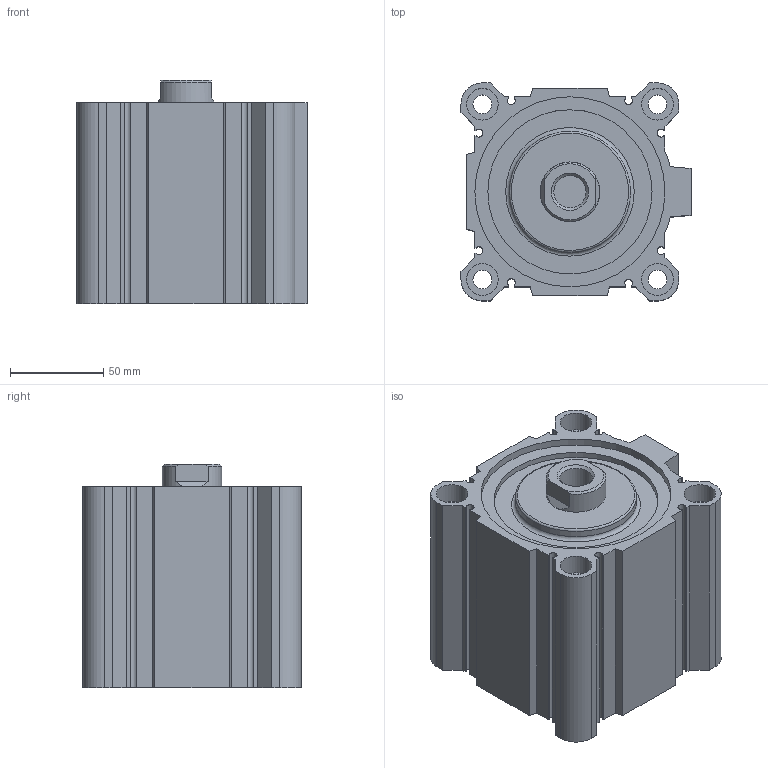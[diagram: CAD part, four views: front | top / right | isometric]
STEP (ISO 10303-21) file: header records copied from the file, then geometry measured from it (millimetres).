
FILE_DESCRIPTION( ( 'STEP AP214' ), '1' );
FILE_NAME( 'C:/Users/emc02044/Desktop/SQN SQN big size/SQN100X45-S.stp', '2026-07-29T04:01:52', ( 'License CC BY-ND 4.0' ), ( 'CADENAS' ), ' ', 'PARTsolutions', ' ' );
FILE_SCHEMA( ( 'AUTOMOTIVE_DESIGN { 1 0 10303 214 1 1 1 1 }' ) );
Length unit declared in the file: millimetre
Products named in the file (3): SQN100X45-S; _SQ100X45-S(0) ()_body; _SQ100X45-S(rod-0)
Assembly tree (2 placements, depth 2):
  SQN100X45-S
    _SQ100X45-S(0) ()_body
    _SQ100X45-S(rod-0)
Bounding box: 123.5 x 117 x 120 mm (x, y, z)
Volume: 866340 mm3; surface area: 181981.1 mm2
Topology: 2 solids, 2 shells, 153 faces, 356 edges, 235 vertices
Faces by surface type: plane 96, cylinder 47, cone 7, torus 3
Full cylindrical faces by diameter (mm): 10.106 x8, 10.9 x4, 14.95 x2, 17 x8, 17.294 x1, 32 x2, 65 x2, 88.1 x2, 100 x2, 102 x2
Entity records: 5436 total; most frequent: DIRECTION 728, CARTESIAN_POINT 714, ORIENTED_EDGE 626, EDGE_CURVE 313, AXIS2_PLACEMENT_3D 263, VERTEX_POINT 233, EDGE_LOOP 230, LINE 202
